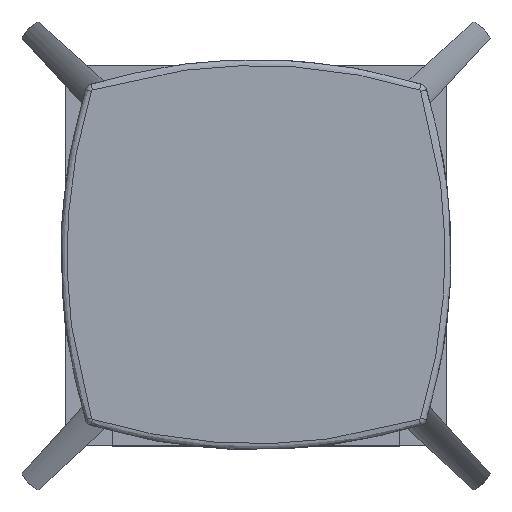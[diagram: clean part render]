
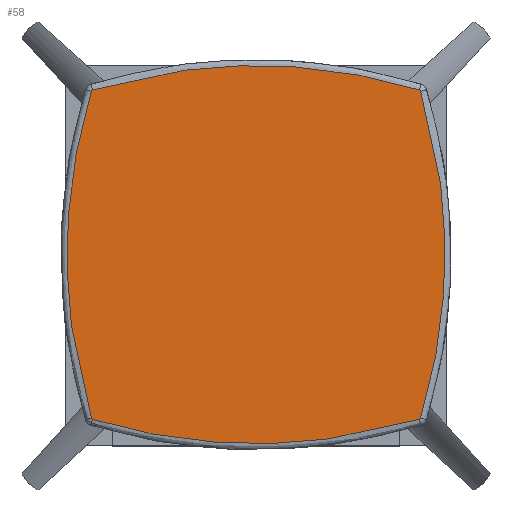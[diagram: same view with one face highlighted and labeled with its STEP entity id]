
A CAD part, top view. The second image highlights one B-rep face of the part: STEP entity #58.
In plain terms, the highlighted planar face has unit normal (0, 0, 1).
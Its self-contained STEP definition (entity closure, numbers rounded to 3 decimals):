
#58=ADVANCED_FACE('',(#186),#1558,.T.);
#186=FACE_OUTER_BOUND('',#314,.T.);
#314=EDGE_LOOP('',(#497,#498,#499,#500,#501,#502,#503,#504));
#497=ORIENTED_EDGE('',*,*,#1007,.F.);
#498=ORIENTED_EDGE('',*,*,#1010,.T.);
#499=ORIENTED_EDGE('',*,*,#998,.F.);
#500=ORIENTED_EDGE('',*,*,#1016,.F.);
#501=ORIENTED_EDGE('',*,*,#1004,.F.);
#502=ORIENTED_EDGE('',*,*,#1014,.T.);
#503=ORIENTED_EDGE('',*,*,#1001,.F.);
#504=ORIENTED_EDGE('',*,*,#1012,.F.);
#998=EDGE_CURVE('',#1362,#1360,#1266,.T.);
#1001=EDGE_CURVE('',#1358,#1364,#1269,.T.);
#1004=EDGE_CURVE('',#1363,#1361,#1272,.T.);
#1007=EDGE_CURVE('',#1359,#1357,#1275,.T.);
#1010=EDGE_CURVE('',#1359,#1360,#1278,.T.);
#1012=EDGE_CURVE('',#1357,#1358,#1280,.T.);
#1014=EDGE_CURVE('',#1363,#1364,#1282,.T.);
#1016=EDGE_CURVE('',#1361,#1362,#1284,.T.);
#1266=(
BOUNDED_CURVE()
B_SPLINE_CURVE(3,(#2394,#2395,#2396,#2397,#2398),.UNSPECIFIED.,.F.,.F.)
B_SPLINE_CURVE_WITH_KNOTS((4,1,4),(0.,161.288,
322.577),.UNSPECIFIED.)
CURVE()
GEOMETRIC_REPRESENTATION_ITEM()
RATIONAL_B_SPLINE_CURVE((1.,1.,1.,1.,1.))
REPRESENTATION_ITEM('')
);
#1269=(
BOUNDED_CURVE()
B_SPLINE_CURVE(3,(#2405,#2406,#2407,#2408,#2409),.UNSPECIFIED.,.F.,.F.)
B_SPLINE_CURVE_WITH_KNOTS((4,1,4),(0.,161.288,
322.577),.UNSPECIFIED.)
CURVE()
GEOMETRIC_REPRESENTATION_ITEM()
RATIONAL_B_SPLINE_CURVE((1.,1.,1.,1.,1.))
REPRESENTATION_ITEM('')
);
#1272=(
BOUNDED_CURVE()
B_SPLINE_CURVE(3,(#2416,#2417,#2418,#2419,#2420),.UNSPECIFIED.,.F.,.F.)
B_SPLINE_CURVE_WITH_KNOTS((4,1,4),(0.,161.288,
322.577),.UNSPECIFIED.)
CURVE()
GEOMETRIC_REPRESENTATION_ITEM()
RATIONAL_B_SPLINE_CURVE((1.,1.,1.,1.,1.))
REPRESENTATION_ITEM('')
);
#1275=(
BOUNDED_CURVE()
B_SPLINE_CURVE(3,(#2427,#2428,#2429,#2430,#2431),.UNSPECIFIED.,.F.,.F.)
B_SPLINE_CURVE_WITH_KNOTS((4,1,4),(0.,161.288,
322.577),.UNSPECIFIED.)
CURVE()
GEOMETRIC_REPRESENTATION_ITEM()
RATIONAL_B_SPLINE_CURVE((1.,1.,1.,1.,1.))
REPRESENTATION_ITEM('')
);
#1278=(
BOUNDED_CURVE()
B_SPLINE_CURVE(3,(#2439,#2440,#2441,#2442),.UNSPECIFIED.,.F.,.F.)
B_SPLINE_CURVE_WITH_KNOTS((4,4),(0.,1.956),
 .UNSPECIFIED.)
CURVE()
GEOMETRIC_REPRESENTATION_ITEM()
RATIONAL_B_SPLINE_CURVE((1.,1.,1.,1.))
REPRESENTATION_ITEM('')
);
#1280=(
BOUNDED_CURVE()
B_SPLINE_CURVE(3,(#2447,#2448,#2449,#2450),.UNSPECIFIED.,.F.,.F.)
B_SPLINE_CURVE_WITH_KNOTS((4,4),(0.,1.956),
 .UNSPECIFIED.)
CURVE()
GEOMETRIC_REPRESENTATION_ITEM()
RATIONAL_B_SPLINE_CURVE((1.,1.,1.,1.))
REPRESENTATION_ITEM('')
);
#1282=(
BOUNDED_CURVE()
B_SPLINE_CURVE(3,(#2455,#2456,#2457,#2458),.UNSPECIFIED.,.F.,.F.)
B_SPLINE_CURVE_WITH_KNOTS((4,4),(0.,1.956),
 .UNSPECIFIED.)
CURVE()
GEOMETRIC_REPRESENTATION_ITEM()
RATIONAL_B_SPLINE_CURVE((1.,1.,1.,1.))
REPRESENTATION_ITEM('')
);
#1284=(
BOUNDED_CURVE()
B_SPLINE_CURVE(3,(#2463,#2464,#2465,#2466),.UNSPECIFIED.,.F.,.F.)
B_SPLINE_CURVE_WITH_KNOTS((4,4),(0.,1.956),
 .UNSPECIFIED.)
CURVE()
GEOMETRIC_REPRESENTATION_ITEM()
RATIONAL_B_SPLINE_CURVE((1.,1.,1.,1.))
REPRESENTATION_ITEM('')
);
#1357=VERTEX_POINT('',#2283);
#1358=VERTEX_POINT('',#2284);
#1359=VERTEX_POINT('',#2285);
#1360=VERTEX_POINT('',#2286);
#1361=VERTEX_POINT('',#2287);
#1362=VERTEX_POINT('',#2288);
#1363=VERTEX_POINT('',#2289);
#1364=VERTEX_POINT('',#2290);
#1558=PLANE('',#1887);
#1887=AXIS2_PLACEMENT_3D('',#2158,#1971,$);
#1971=DIRECTION('',(0.,0.,1.));
#2158=CARTESIAN_POINT('',(-219.394,219.394,758.));
#2283=CARTESIAN_POINT('',(-160.265,158.936,758.));
#2284=CARTESIAN_POINT('',(-158.936,160.265,758.));
#2285=CARTESIAN_POINT('',(-160.265,-158.936,758.));
#2286=CARTESIAN_POINT('',(-158.936,-160.265,758.));
#2287=CARTESIAN_POINT('',(160.265,-158.936,758.));
#2288=CARTESIAN_POINT('',(158.936,-160.265,758.));
#2289=CARTESIAN_POINT('',(160.265,158.936,758.));
#2290=CARTESIAN_POINT('',(158.936,160.265,758.));
#2394=CARTESIAN_POINT('',(158.936,-160.265,758.));
#2395=CARTESIAN_POINT('',(107.523,-175.988,758.));
#2396=CARTESIAN_POINT('',(0.,-192.019,758.));
#2397=CARTESIAN_POINT('',(-107.523,-175.988,758.));
#2398=CARTESIAN_POINT('',(-158.936,-160.265,758.));
#2405=CARTESIAN_POINT('',(-158.936,160.265,758.));
#2406=CARTESIAN_POINT('',(-107.523,175.988,758.));
#2407=CARTESIAN_POINT('',(0.,192.019,758.));
#2408=CARTESIAN_POINT('',(107.523,175.988,758.));
#2409=CARTESIAN_POINT('',(158.936,160.265,758.));
#2416=CARTESIAN_POINT('',(160.265,158.936,758.));
#2417=CARTESIAN_POINT('',(175.988,107.523,758.));
#2418=CARTESIAN_POINT('',(192.019,0.,758.));
#2419=CARTESIAN_POINT('',(175.988,-107.523,758.));
#2420=CARTESIAN_POINT('',(160.265,-158.936,758.));
#2427=CARTESIAN_POINT('',(-160.265,-158.936,758.));
#2428=CARTESIAN_POINT('',(-175.988,-107.523,758.));
#2429=CARTESIAN_POINT('',(-192.019,0.,758.));
#2430=CARTESIAN_POINT('',(-175.988,107.523,758.));
#2431=CARTESIAN_POINT('',(-160.265,158.936,758.));
#2439=CARTESIAN_POINT('',(-160.265,-158.936,758.));
#2440=CARTESIAN_POINT('',(-160.078,-159.563,758.));
#2441=CARTESIAN_POINT('',(-159.563,-160.078,758.));
#2442=CARTESIAN_POINT('',(-158.936,-160.265,758.));
#2447=CARTESIAN_POINT('',(-160.265,158.936,758.));
#2448=CARTESIAN_POINT('',(-160.078,159.563,758.));
#2449=CARTESIAN_POINT('',(-159.563,160.078,758.));
#2450=CARTESIAN_POINT('',(-158.936,160.265,758.));
#2455=CARTESIAN_POINT('',(160.265,158.936,758.));
#2456=CARTESIAN_POINT('',(160.078,159.563,758.));
#2457=CARTESIAN_POINT('',(159.563,160.078,758.));
#2458=CARTESIAN_POINT('',(158.936,160.265,758.));
#2463=CARTESIAN_POINT('',(160.265,-158.936,758.));
#2464=CARTESIAN_POINT('',(160.078,-159.563,758.));
#2465=CARTESIAN_POINT('',(159.563,-160.078,758.));
#2466=CARTESIAN_POINT('',(158.936,-160.265,758.));
